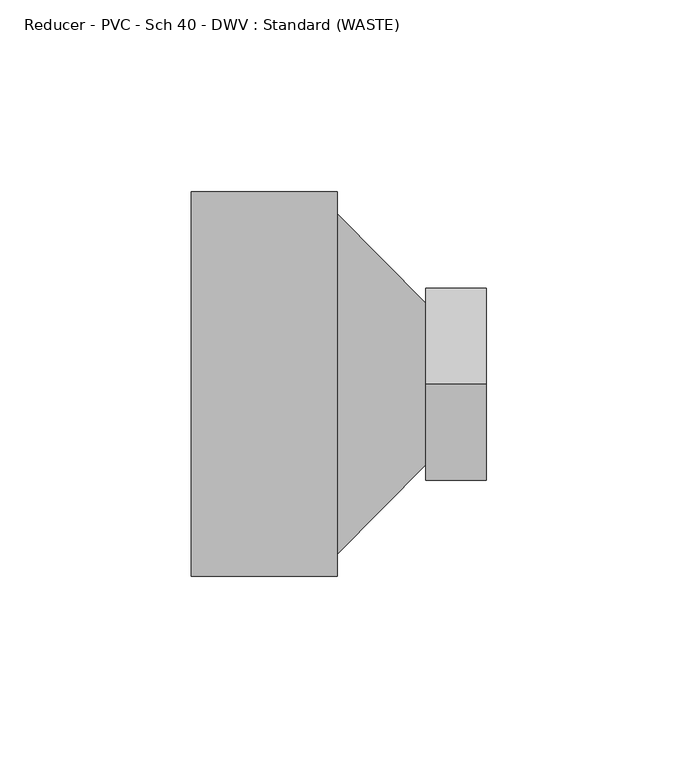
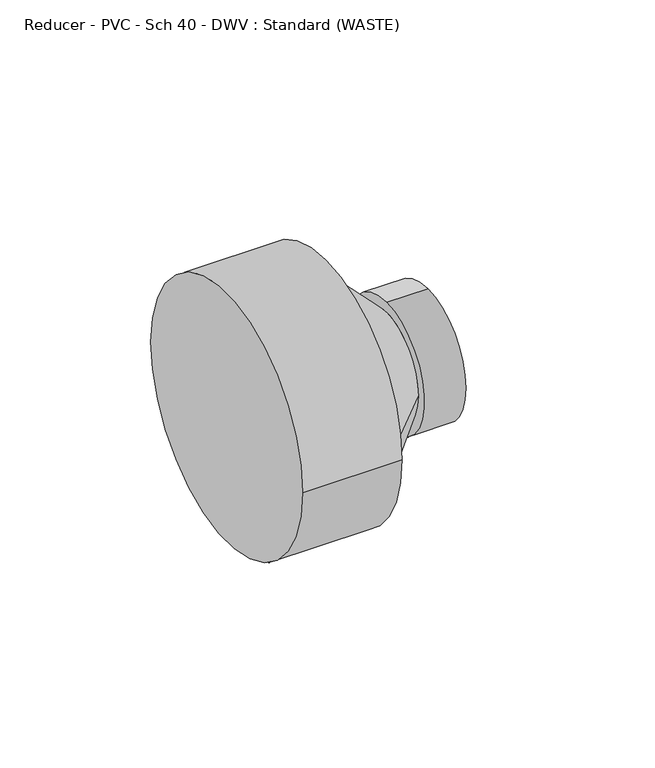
"""IFC4 building model written with IfcOpenShell, lengths in millimetres: pipe fitting geometry, Reducer - PVC - Sch 40 - DWV : Standard (WASTE)."""

from ifc_helpers import new_model, si_unit, frame, origin, place, context, project, spatial, polyline, circle_curve, source, transform, mapped, element, save
from ifc_brep_helpers import plane_surface, cylinder_surface, revolved_surface, advanced_brep


def reducer_pvc_sch_40_dwv_standard_waste_1a514368(model_context):
    return source(origin(), model_context, "Body", "AdvancedBrep", [
        advanced_brep(
        [(0.0, -50.2666, 0.0), (0.0, 50.2666, 0.0), (38.1, -50.2666, 0.0), (38.1, 50.2666, 0.0), (38.1, 44.45, 0.0), (38.1, -44.45, 0.0), (61.1385938, 21.0740625, 0.0), (61.1385938, -21.0740625, 0.0), (61.1385938, 0.0, 25.1321094), (61.1385938, 0.0, -25.1321094), (77.0135938, 0.0, 25.1321094), (77.0135938, 0.0, -25.1321094)],
        [
            (0, 1, circle_curve(frame((0.0, 0.0, 0.0), z_axis=(-1.0, 0.0, 0.0), x_axis=(0.0, 1.0, 0.0)), 50.2666)),
            (1, 0, circle_curve(frame((0.0, 0.0, 0.0), z_axis=(-1.0, 0.0, 0.0), x_axis=(0.0, 1.0, 0.0)), 50.2666)),
            (2, 3, circle_curve(frame((38.1, 0.0, 0.0), z_axis=(1.0, 0.0, 0.0), x_axis=(0.0, 1.0, 0.0)), 50.2666)),
            (3, 2, circle_curve(frame((38.1, 0.0, 0.0), z_axis=(1.0, 0.0, 0.0), x_axis=(0.0, 1.0, 0.0)), 50.2666)),
            (4, 5, circle_curve(frame((38.1, 0.0, 0.0), z_axis=(-1.0, 0.0, 0.0), x_axis=(0.0, -1.0, 0.0)), 44.45)),
            (5, 4, circle_curve(frame((38.1, 0.0, 0.0), z_axis=(-1.0, 0.0, 0.0), x_axis=(0.0, 1.0, 0.0)), 44.45)),
            (0, 2),
            (3, 1),
            (4, 6),
            (6, 7, circle_curve(frame((61.1385938, 0.0, 0.0), z_axis=(-1.0, 0.0, 0.0), x_axis=(0.0, -1.0, 0.0)), 21.0740625)),
            (7, 5),
            (7, 6, circle_curve(frame((61.1385938, 0.0, 0.0), z_axis=(-1.0, 0.0, 0.0), x_axis=(0.0, 1.0, 0.0)), 21.0740625)),
            (8, 9, circle_curve(frame((61.1385938, 0.0, 0.0), z_axis=(-1.0, 0.0, 0.0), x_axis=(0.0, 0.0, -1.0)), 25.1321094)),
            (9, 8, circle_curve(frame((61.1385938, 0.0, 0.0), z_axis=(-1.0, 0.0, 0.0), x_axis=(0.0, 0.0, -1.0)), 25.1321094)),
            (10, 11, circle_curve(frame((77.0135938, 0.0, 0.0), z_axis=(1.0, 0.0, 0.0), x_axis=(0.0, 0.0, -1.0)), 25.1321094)),
            (11, 10, circle_curve(frame((77.0135938, 0.0, 0.0), z_axis=(1.0, 0.0, 0.0), x_axis=(0.0, 0.0, -1.0)), 25.1321094)),
            (8, 10),
            (11, 9),
        ],
        [
            plane_surface(frame((0.0, 0.0, 0.0), z_axis=(-1.0, 0.0, 0.0), x_axis=(0.0, 0.0, 1.0))),
            plane_surface(frame((38.1, 0.0, 0.0), z_axis=(1.0, 0.0, 0.0), x_axis=(0.0, 0.0, 1.0))),
            cylinder_surface(frame((0.0, 0.0, 0.0), z_axis=(-1.0, 0.0, 0.0), x_axis=(0.0, 1.0, 0.0)), 50.2666),
            revolved_surface(polyline([(61.1385938, 21.074062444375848, 0.0), (38.1, 44.45, 0.0)]), (81.9085314, 0.0, 0.0), (-1.0, 0.0, 0.0)),
            plane_surface(frame((61.1385938, 0.0, 0.0), z_axis=(-1.0, 0.0, 0.0), x_axis=(0.0, 1.0, 0.0))),
            plane_surface(frame((77.0135938, 0.0, 0.0), z_axis=(1.0, 0.0, 0.0), x_axis=(0.0, 1.0, 0.0))),
            cylinder_surface(frame((61.1385938, 0.0, 0.0), z_axis=(-1.0, 0.0, 0.0), x_axis=(0.0, 0.0, -1.0)), 25.1321094),
        ],
        [
            (0, [[1, 2]]),
            (1, [[3, 4], [5, 6]]),
            (2, [[-1, 7, -4, 8]]),
            (2, [[-2, -8, -3, -7]]),
            (3, [[9, 10, 11, -5]]),
            (3, [[-9, -6, -11, 12]]),
            (4, [[13, 14], [-10, -12]]),
            (5, [[15, 16]]),
            (6, [[-13, 17, -16, 18]]),
            (6, [[-14, -18, -15, -17]]),
        ],
    ),
        advanced_brep(
        [(0.0, -50.2666, 0.0), (0.0, 50.2666, 0.0), (38.1, -50.2666, 0.0), (38.1, 50.2666, 0.0), (38.1, 44.45, 0.0), (38.1, -44.45, 0.0), (61.1385938, 21.0740625, 0.0), (61.1385938, -21.0740625, 0.0), (61.1385938, 0.0, 25.1321094), (61.1385938, 0.0, -25.1321094), (77.0135938, 0.0, 25.1321094), (77.0135938, 0.0, -25.1321094)],
        [
            (0, 1, circle_curve(frame((0.0, 0.0, 0.0), z_axis=(-1.0, 0.0, 0.0), x_axis=(0.0, 1.0, 0.0)), 50.2666)),
            (1, 0, circle_curve(frame((0.0, 0.0, 0.0), z_axis=(-1.0, 0.0, 0.0), x_axis=(0.0, 1.0, 0.0)), 50.2666)),
            (2, 3, circle_curve(frame((38.1, 0.0, 0.0), z_axis=(1.0, 0.0, 0.0), x_axis=(0.0, 1.0, 0.0)), 50.2666)),
            (3, 2, circle_curve(frame((38.1, 0.0, 0.0), z_axis=(1.0, 0.0, 0.0), x_axis=(0.0, 1.0, 0.0)), 50.2666)),
            (4, 5, circle_curve(frame((38.1, 0.0, 0.0), z_axis=(-1.0, 0.0, 0.0), x_axis=(0.0, -1.0, 0.0)), 44.45)),
            (5, 4, circle_curve(frame((38.1, 0.0, 0.0), z_axis=(-1.0, 0.0, 0.0), x_axis=(0.0, 1.0, 0.0)), 44.45)),
            (0, 2),
            (3, 1),
            (4, 6),
            (6, 7, circle_curve(frame((61.1385938, 0.0, 0.0), z_axis=(-1.0, 0.0, 0.0), x_axis=(0.0, -1.0, 0.0)), 21.0740625)),
            (7, 5),
            (7, 6, circle_curve(frame((61.1385938, 0.0, 0.0), z_axis=(-1.0, 0.0, 0.0), x_axis=(0.0, 1.0, 0.0)), 21.0740625)),
            (8, 9, circle_curve(frame((61.1385938, 0.0, 0.0), z_axis=(-1.0, 0.0, 0.0), x_axis=(0.0, 0.0, -1.0)), 25.1321094)),
            (9, 8, circle_curve(frame((61.1385938, 0.0, 0.0), z_axis=(-1.0, 0.0, 0.0), x_axis=(0.0, 0.0, -1.0)), 25.1321094)),
            (10, 11, circle_curve(frame((77.0135938, 0.0, 0.0), z_axis=(1.0, 0.0, 0.0), x_axis=(0.0, 0.0, -1.0)), 25.1321094)),
            (11, 10, circle_curve(frame((77.0135938, 0.0, 0.0), z_axis=(1.0, 0.0, 0.0), x_axis=(0.0, 0.0, -1.0)), 25.1321094)),
            (8, 10),
            (11, 9),
        ],
        [
            plane_surface(frame((0.0, 0.0, 0.0), z_axis=(-1.0, 0.0, 0.0), x_axis=(0.0, 0.0, 1.0))),
            plane_surface(frame((38.1, 0.0, 0.0), z_axis=(1.0, 0.0, 0.0), x_axis=(0.0, 0.0, 1.0))),
            cylinder_surface(frame((0.0, 0.0, 0.0), z_axis=(-1.0, 0.0, 0.0), x_axis=(0.0, 1.0, 0.0)), 50.2666),
            revolved_surface(polyline([(61.1385938, 21.074062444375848, 0.0), (38.1, 44.45, 0.0)]), (81.9085314, 0.0, 0.0), (-1.0, 0.0, 0.0)),
            plane_surface(frame((61.1385938, 0.0, 0.0), z_axis=(-1.0, 0.0, 0.0), x_axis=(0.0, 1.0, 0.0))),
            plane_surface(frame((77.0135938, 0.0, 0.0), z_axis=(1.0, 0.0, 0.0), x_axis=(0.0, 1.0, 0.0))),
            cylinder_surface(frame((61.1385938, 0.0, 0.0), z_axis=(-1.0, 0.0, 0.0), x_axis=(0.0, 0.0, -1.0)), 25.1321094),
        ],
        [
            (0, [[1, 2]]),
            (1, [[3, 4], [5, 6]]),
            (2, [[-1, 7, -4, 8]]),
            (2, [[-2, -8, -3, -7]]),
            (3, [[9, 10, 11, -5]]),
            (3, [[-9, -6, -11, 12]]),
            (4, [[13, 14], [-10, -12]]),
            (5, [[15, 16]]),
            (6, [[-13, 17, -16, 18]]),
            (6, [[-14, -18, -15, -17]]),
        ],
    ),
    ])


if __name__ == "__main__":
    model = new_model("IFC4")
    model_context = context("Model", 3, world=origin())
    ifc_project = project(units=[si_unit("LENGTHUNIT", "METRE", prefix="MILLI")], contexts=[model_context])
    site = spatial("IfcSite", under=ifc_project)
    building = spatial("IfcBuilding", under=site)
    placement = place(None, origin())
    reducer_pvc_sch_40_dwv_standard_waste_shape = reducer_pvc_sch_40_dwv_standard_waste_1a514368(model_context)
    element("IfcPipeFitting", 1, ObjectType="Reducer - PVC - Sch 40 - DWV : Standard (WASTE)", at=placement, inside=building, context=model_context, shape_type="MappedRepresentation", body=[
        mapped(reducer_pvc_sch_40_dwv_standard_waste_shape, transform((0.0, 0.0, 0.0), x_axis=(1.0, 0.0, 0.0), y_axis=(0.0, 1.0, 0.0), z_axis=(0.0, 0.0, 1.0))),
    ])
    save(model, "model.ifc")
